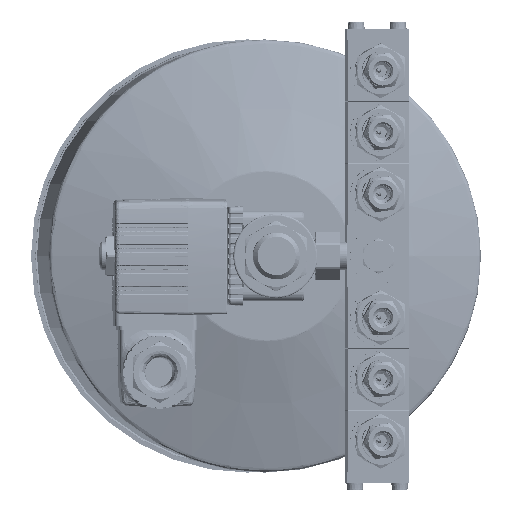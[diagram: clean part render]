
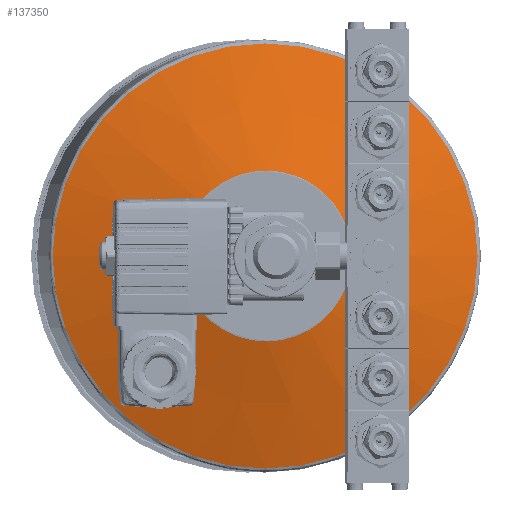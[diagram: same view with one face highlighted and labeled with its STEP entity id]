
A CAD part, left-side view. The second image highlights one B-rep face of the part: STEP entity #137350.
In plain terms, the highlighted conical face has half-angle 73.997 degrees and reference radius 75.769 mm.
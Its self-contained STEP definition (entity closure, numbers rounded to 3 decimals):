
#4304 = EDGE_LOOP ( 'NONE', ( #70773 ) ) ;
#7918 = FACE_BOUND ( 'NONE', #4304, .T. ) ;
#14282 = DIRECTION ( 'NONE',  ( 1., 0., 0. ) ) ;
#45709 = DIRECTION ( 'NONE',  ( 0., -1., 0. ) ) ;
#61267 = DIRECTION ( 'NONE',  ( 0., 0., -1. ) ) ;
#62235 = CONICAL_SURFACE ( 'NONE', #243079, 75.769, 1.291 ) ;
#70773 = ORIENTED_EDGE ( 'NONE', *, *, #275681, .T. ) ;
#85094 = EDGE_CURVE ( 'NONE', #221009, #221009, #138847, .T. ) ;
#97592 = DIRECTION ( 'NONE',  ( 0., -1., 0. ) ) ;
#109865 = CARTESIAN_POINT ( 'NONE',  ( 86.458, 0., 0. ) ) ;
#121842 = DIRECTION ( 'NONE',  ( 1., 0., 0. ) ) ;
#137350 = ADVANCED_FACE ( 'NONE', ( #223223, #7918 ), #62235, .T. ) ;
#138847 = CIRCLE ( 'NONE', #288796, 75.769 ) ;
#147637 = CARTESIAN_POINT ( 'NONE',  ( 86.458, 0., 0. ) ) ;
#148228 = CARTESIAN_POINT ( 'NONE',  ( 86.458, -75.769, 0. ) ) ;
#151039 = CARTESIAN_POINT ( 'NONE',  ( 73.466, -30.469, 0. ) ) ;
#173057 = ORIENTED_EDGE ( 'NONE', *, *, #85094, .T. ) ;
#175097 = AXIS2_PLACEMENT_3D ( 'NONE', #317631, #121842, #97592 ) ;
#217379 = EDGE_LOOP ( 'NONE', ( #173057 ) ) ;
#221009 = VERTEX_POINT ( 'NONE', #148228 ) ;
#223223 = FACE_OUTER_BOUND ( 'NONE', #217379, .T. ) ;
#241482 = DIRECTION ( 'NONE',  ( -1., 0., 0. ) ) ;
#243079 = AXIS2_PLACEMENT_3D ( 'NONE', #109865, #14282, #61267 ) ;
#248123 = VERTEX_POINT ( 'NONE', #151039 ) ;
#252643 = CIRCLE ( 'NONE', #175097, 30.469 ) ;
#275681 = EDGE_CURVE ( 'NONE', #248123, #248123, #252643, .T. ) ;
#288796 = AXIS2_PLACEMENT_3D ( 'NONE', #147637, #241482, #45709 ) ;
#317631 = CARTESIAN_POINT ( 'NONE',  ( 73.466, 0., 0. ) ) ;
